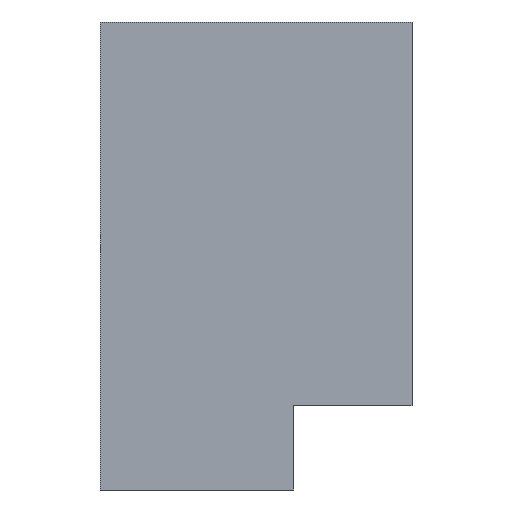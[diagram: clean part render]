
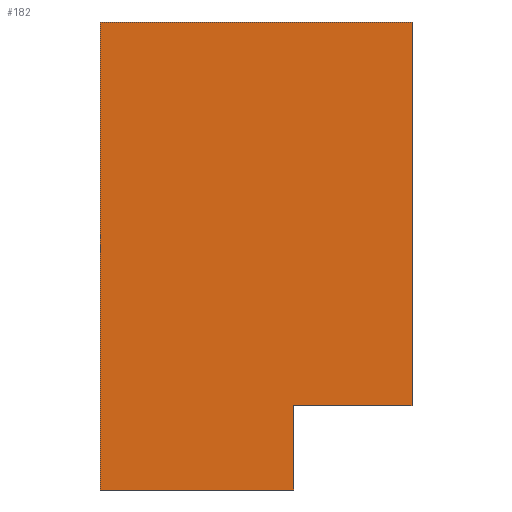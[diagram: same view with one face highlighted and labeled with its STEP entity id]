
A CAD part, left-side view. The second image highlights one B-rep face of the part: STEP entity #182.
In plain terms, the highlighted planar face has unit normal (-1, 0, 0).
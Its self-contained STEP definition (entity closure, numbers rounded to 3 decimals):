
#153=AXIS2_PLACEMENT_3D('Plane Axis2P3D',#150,#151,#152) ;
#43=CARTESIAN_POINT('Vertex',(-10.5,-6.,10.5)) ;
#57=CARTESIAN_POINT('Vertex',(-10.5,-20.,10.5)) ;
#60=CARTESIAN_POINT('Line Origine',(-10.5,-13.,10.5)) ;
#84=CARTESIAN_POINT('Line Origine',(-10.5,-6.,5.5)) ;
#88=CARTESIAN_POINT('Vertex',(-10.5,-6.,0.5)) ;
#126=CARTESIAN_POINT('Vertex',(-10.5,-20.,56.)) ;
#129=CARTESIAN_POINT('Line Origine',(-10.5,-20.,33.25)) ;
#150=CARTESIAN_POINT('Axis2P3D Location',(-10.5,-20.,0.)) ;
#155=CARTESIAN_POINT('Line Origine',(-10.5,-1.5,56.)) ;
#159=CARTESIAN_POINT('Vertex',(-10.5,17.,56.)) ;
#162=CARTESIAN_POINT('Line Origine',(-10.5,17.,30.25)) ;
#166=CARTESIAN_POINT('Vertex',(-10.5,17.,0.5)) ;
#169=CARTESIAN_POINT('Line Origine',(-10.5,-1.5,0.5)) ;
#61=DIRECTION('Vector Direction',(0.,-1.,0.)) ;
#85=DIRECTION('Vector Direction',(0.,0.,-1.)) ;
#130=DIRECTION('Vector Direction',(0.,0.,1.)) ;
#151=DIRECTION('Axis2P3D Direction',(1.,0.,0.)) ;
#152=DIRECTION('Axis2P3D XDirection',(0.,1.,0.)) ;
#156=DIRECTION('Vector Direction',(0.,1.,0.)) ;
#163=DIRECTION('Vector Direction',(0.,0.,1.)) ;
#170=DIRECTION('Vector Direction',(0.,1.,0.)) ;
#62=VECTOR('Line Direction',#61,1.) ;
#86=VECTOR('Line Direction',#85,1.) ;
#131=VECTOR('Line Direction',#130,1.) ;
#157=VECTOR('Line Direction',#156,1.) ;
#164=VECTOR('Line Direction',#163,1.) ;
#171=VECTOR('Line Direction',#170,1.) ;
#175=ORIENTED_EDGE('',*,*,#90,.F.) ;
#176=ORIENTED_EDGE('',*,*,#64,.T.) ;
#177=ORIENTED_EDGE('',*,*,#133,.T.) ;
#178=ORIENTED_EDGE('',*,*,#161,.F.) ;
#179=ORIENTED_EDGE('',*,*,#168,.T.) ;
#180=ORIENTED_EDGE('',*,*,#173,.F.) ;
#182=ADVANCED_FACE('\X2\96F64EF651E04F554F53\X0\',(#181),#154,.F.) ;
#64=EDGE_CURVE('',#44,#58,#63,.T.) ;
#90=EDGE_CURVE('',#44,#89,#87,.T.) ;
#133=EDGE_CURVE('',#58,#127,#132,.T.) ;
#161=EDGE_CURVE('',#160,#127,#158,.F.) ;
#168=EDGE_CURVE('',#160,#167,#165,.F.) ;
#173=EDGE_CURVE('',#89,#167,#172,.T.) ;
#174=EDGE_LOOP('',(#175,#176,#177,#178,#179,#180)) ;
#181=FACE_OUTER_BOUND('',#174,.T.) ;
#63=LINE('Line',#60,#62) ;
#87=LINE('Line',#84,#86) ;
#132=LINE('Line',#129,#131) ;
#158=LINE('Line',#155,#157) ;
#165=LINE('Line',#162,#164) ;
#172=LINE('Line',#169,#171) ;
#154=PLANE('',#153) ;
#44=VERTEX_POINT('',#43) ;
#58=VERTEX_POINT('',#57) ;
#89=VERTEX_POINT('',#88) ;
#127=VERTEX_POINT('',#126) ;
#160=VERTEX_POINT('',#159) ;
#167=VERTEX_POINT('',#166) ;
